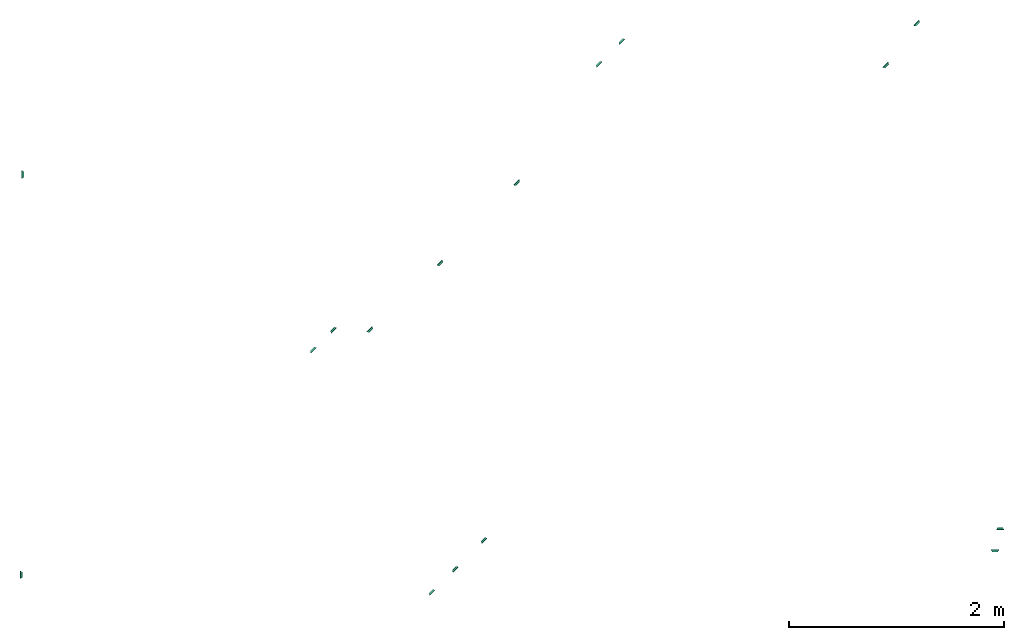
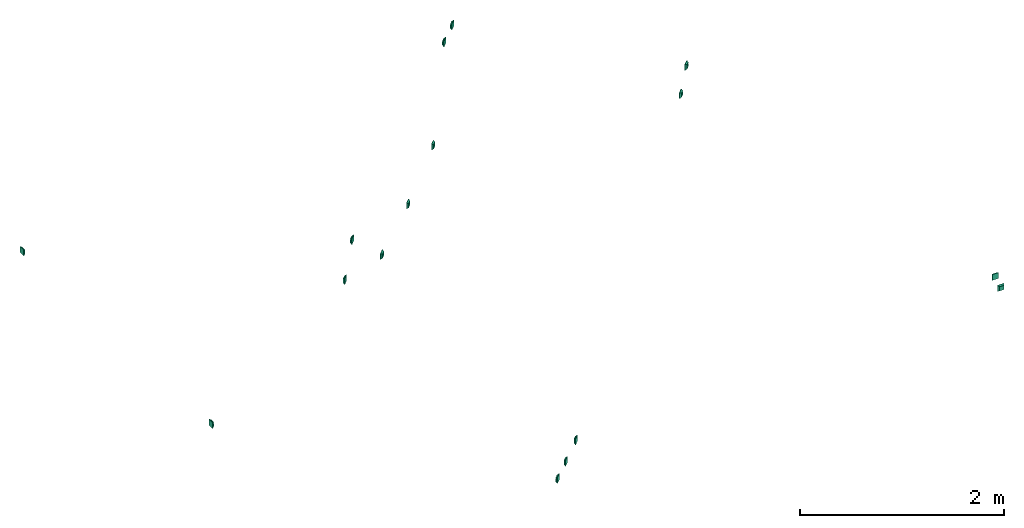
# One storey: 16 flow terminals.
"""IFC2X3 building model written with IfcOpenShell, lengths in millimetres."""

from ifc_helpers import new_model, entity, si_unit, converted_unit, derived_unit, direction, frame, origin_with_axes, place, context, subcontext, project, spatial, open_shell, surface_model, source, transform, mapped, type_object, element, save


model = new_model("IFC2X3")

# Units and contexts
model_context = context("Model", 3, precision=0.01, world=frame((0.0, 4.29681676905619e-09, 0.0)), true_north=direction((4.01073788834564e-13, 1.0)))
plan_context = context("Plan", 3, precision=0.01, world=frame((0.0, 4.29681676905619e-09, 0.0)), true_north=direction((4.01073788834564e-13, 1.0)))
body_context = subcontext(model_context, "Body", "Model", "MODEL_VIEW")
ifc_project = project(units=[converted_unit("PLANEANGLEUNIT", "DEGREE", entity("IfcPositiveLengthMeasure", 0.0174532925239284), si_unit("PLANEANGLEUNIT", "RADIAN"), dimensions=[0, 0, 0, 0, 0, 0, 0]), si_unit("AREAUNIT", "SQUARE_METRE"), si_unit("LENGTHUNIT", "METRE", prefix="MILLI"), si_unit("MASSUNIT", "GRAM", prefix="KILO"), si_unit("POWERUNIT", "WATT"), si_unit("PRESSUREUNIT", "PASCAL", prefix="KILO"), si_unit("FORCEUNIT", "NEWTON", prefix="KILO"), si_unit("ELECTRICVOLTAGEUNIT", "VOLT"), si_unit("ELECTRICCURRENTUNIT", "AMPERE"), si_unit("THERMODYNAMICTEMPERATUREUNIT", "DEGREE_CELSIUS"), si_unit("TIMEUNIT", "SECOND"), si_unit("VOLUMEUNIT", "CUBIC_METRE"), derived_unit("LINEARVELOCITYUNIT", [(si_unit("LENGTHUNIT", "METRE"), 1), (si_unit("TIMEUNIT", "SECOND"), -1)]), derived_unit("VOLUMETRICFLOWRATEUNIT", [(si_unit("VOLUMEUNIT", "CUBIC_METRE"), 1), (si_unit("TIMEUNIT", "SECOND"), -1)]), derived_unit("THERMALTRANSMITTANCEUNIT", [(si_unit("POWERUNIT", "WATT"), 1), (si_unit("THERMODYNAMICTEMPERATUREUNIT", "KELVIN"), -1), (si_unit("AREAUNIT", "SQUARE_METRE"), -1)]), derived_unit("SOUNDPRESSUREUNIT", [(si_unit("PRESSUREUNIT", "PASCAL"), 1)])], contexts=[model_context, plan_context])

# Site, building, storey
site_placement = place(None, frame((0.0, -4.29681676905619e-09, 0.0), z_axis=(0.0, 0.0, 1.0), x_axis=(1.0, 0.0, 0.0)))
site = spatial("IfcSite", under=ifc_project, at=site_placement, Name="ENGM", CompositionType="ELEMENT")
building_placement = place(site_placement, frame((0.0, 4.29681676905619e-09, 0.0), z_axis=(0.0, 0.0, 1.0), x_axis=(1.0, 0.0, 0.0)))
building = spatial("IfcBuilding", under=site, at=building_placement, Name="TS", CompositionType="ELEMENT")
storey_placement = place(building_placement, frame((0.0, 0.0, 204000.0), z_axis=(0.0, 0.0, 1.0), x_axis=(1.0, 0.0, 0.0)))
storey = spatial("IfcBuildingStorey", under=building, at=storey_placement, Name="Nivå D", CompositionType="ELEMENT", Elevation=204000.0)

# Flow terminals
outlet_type_1 = type_object("IfcOutletType", Name="Data socket-2", PredefinedType="COMMUNICATIONSOUTLET")
shared_shape_1 = source(origin_with_axes(), body_context, "Body", "SurfaceModel", [
    surface_model("IfcShellBasedSurfaceModel", [(35.5, 5.05547, 35.5832), (25.5, 20.05547, 25.5832), (-35.5, 5.05547, 35.5832), (-25.5, 20.05547, 25.5832), (-35.5, 4.94453, 35.41679), (-25.5, 19.94453, 25.41679), (25.5, 19.94453, 25.41679), (35.5, 4.94453, 35.41679), (35.5, 4.94453, -35.41679), (25.5, 19.94453, -25.41679), (-35.5, 4.94453, -35.41679), (-25.5, 19.94453, -25.41679), (-35.5, 5.05547, -35.5832), (-25.5, 20.05547, -25.5832), (25.5, 20.05547, -25.5832), (35.5, 5.05547, -35.5832), (-25.5832, 20.05547, -25.5), (-35.5832, 5.05547, -35.5), (-35.5832, 5.05547, 35.5), (-25.5832, 20.05547, 25.5), (-25.41679, 19.94453, 25.5), (-35.41679, 4.94453, 35.5), (-25.41679, 19.94453, -25.5), (-35.41679, 4.94453, -35.5), (25.41679, 19.94453, -25.5), (35.41679, 4.94453, -35.5), (35.41679, 4.94453, 35.5), (25.41679, 19.94453, 25.5), (25.5832, 20.05547, 25.5), (35.5832, 5.05547, 35.5), (25.5832, 20.05547, -25.5), (35.5832, 5.05547, -35.5), (35.4, 5.0, -35.5), (35.4, 0.0, -35.5), (35.4, 0.0, 35.5), (35.4, 5.0, 35.5), (35.6, 5.0, 35.5), (35.6, 0.0, 35.5), (35.6, 0.0, -35.5), (35.6, 5.0, -35.5), (-35.5, 0.0, -35.6), (-35.5, 5.0, -35.6), (35.5, 5.0, -35.6), (35.5, 0.0, -35.6), (35.5, 0.0, -35.4), (35.5, 5.0, -35.4), (-35.5, 5.0, -35.4), (-35.5, 0.0, -35.4), (-35.6, 5.0, -35.5), (-35.6, 0.0, -35.5), (-35.6, 0.0, 35.5), (-35.6, 5.0, 35.5), (-35.4, 5.0, 35.5), (-35.4, 0.0, 35.5), (-35.4, 0.0, -35.5), (-35.4, 5.0, -35.5), (-35.5, -0.1, -35.5), (35.5, -0.1, -35.5), (35.5, -0.1, 35.5), (-35.5, -0.1, 35.5), (-35.5, 0.1, 35.5), (35.5, 0.1, 35.5), (35.5, 0.1, -35.5), (-35.5, 0.1, -35.5), (-35.5, 0.0, 35.4), (-35.5, 5.0, 35.4), (35.5, 5.0, 35.4), (35.5, 0.0, 35.4), (35.5, 0.0, 35.6), (35.5, 5.0, 35.6), (-35.5, 5.0, 35.6), (-35.5, 0.0, 35.6), (-25.5, 19.9, -25.5), (25.5, 19.9, -25.5), (25.5, 19.9, 25.5), (-25.5, 19.9, 25.5), (-25.5, 20.1, 25.5), (25.5, 20.1, 25.5), (25.5, 20.1, -25.5), (-25.5, 20.1, -25.5), (-25.5, 22.0, 25.5), (-25.5, 20.0, 25.5), (25.5, 20.0, 25.5), (25.5, 22.0, 25.5), (25.5, 22.0, 20.5), (25.5, 20.0, 20.5), (-25.5, 20.0, 20.5), (-25.5, 22.0, 20.5), (-25.5, 22.0, 10.5), (-25.5, 20.0, 10.5), (25.5, 20.0, 10.5), (25.5, 22.0, 10.5), (25.5, 22.0, -25.5), (25.5, 20.0, -25.5), (-25.5, 20.0, -25.5), (-25.5, 22.0, -25.5), (-17.5, 21.91, -6.5), (-2.5, 21.91, -6.5), (-17.5, 21.91, 8.5), (-2.5, 21.91, 8.5), (-17.5, 22.11, 8.5), (-2.5, 22.11, 8.5), (-17.5, 22.11, -6.5), (-2.5, 22.11, -6.5), (2.5, 21.91, -6.5), (17.5, 21.91, -6.5), (17.5, 21.91, 8.5), (2.5, 21.91, 8.5), (2.5, 22.11, 8.5), (17.5, 22.11, 8.5), (2.5, 22.11, -6.5), (17.5, 22.11, -6.5)], [open_shell([[[0, 1, 2]], [[3, 2, 1]], [[4, 5, 6]], [[6, 7, 4]], [[3, 1, 6]], [[6, 5, 3]], [[2, 3, 4]], [[5, 4, 3]], [[0, 2, 7]], [[4, 7, 2]], [[1, 0, 6]], [[7, 6, 0]], [[8, 9, 10]], [[11, 10, 9]], [[12, 13, 14]], [[14, 15, 12]], [[11, 9, 14]], [[14, 13, 11]], [[10, 11, 12]], [[13, 12, 11]], [[8, 10, 12]], [[12, 15, 8]], [[9, 8, 14]], [[15, 14, 8]], [[16, 17, 18]], [[18, 19, 16]], [[20, 21, 22]], [[23, 22, 21]], [[18, 17, 23]], [[23, 21, 18]], [[19, 18, 20]], [[21, 20, 18]], [[16, 19, 20]], [[20, 22, 16]], [[17, 16, 22]], [[22, 23, 17]], [[24, 25, 26]], [[26, 27, 24]], [[28, 29, 30]], [[31, 30, 29]], [[26, 25, 31]], [[31, 29, 26]], [[27, 26, 28]], [[29, 28, 26]], [[24, 27, 28]], [[28, 30, 24]], [[25, 24, 30]], [[30, 31, 25]], [[32, 33, 34]], [[34, 35, 32]], [[36, 37, 38]], [[38, 39, 36]], [[34, 33, 38]], [[38, 37, 34]], [[35, 34, 37]], [[37, 36, 35]], [[32, 35, 36]], [[36, 39, 32]], [[33, 32, 39]], [[39, 38, 33]], [[40, 41, 42]], [[42, 43, 40]], [[44, 45, 46]], [[46, 47, 44]], [[42, 41, 46]], [[46, 45, 42]], [[43, 42, 45]], [[45, 44, 43]], [[40, 43, 44]], [[44, 47, 40]], [[41, 40, 47]], [[47, 46, 41]], [[48, 49, 50]], [[50, 51, 48]], [[52, 53, 54]], [[54, 55, 52]], [[50, 49, 54]], [[54, 53, 50]], [[51, 50, 53]], [[53, 52, 51]], [[48, 51, 52]], [[52, 55, 48]], [[49, 48, 55]], [[55, 54, 49]], [[56, 57, 58]], [[58, 59, 56]], [[60, 61, 62]], [[62, 63, 60]], [[58, 57, 62]], [[62, 61, 58]], [[59, 58, 61]], [[61, 60, 59]], [[56, 59, 60]], [[60, 63, 56]], [[57, 56, 63]], [[63, 62, 57]], [[64, 65, 66]], [[66, 67, 64]], [[68, 69, 70]], [[70, 71, 68]], [[66, 65, 70]], [[70, 69, 66]], [[67, 66, 69]], [[69, 68, 67]], [[64, 67, 68]], [[68, 71, 64]], [[65, 64, 71]], [[71, 70, 65]], [[72, 73, 74]], [[74, 75, 72]], [[76, 77, 78]], [[78, 79, 76]], [[74, 73, 78]], [[78, 77, 74]], [[75, 74, 77]], [[77, 76, 75]], [[72, 75, 76]], [[76, 79, 72]], [[73, 72, 79]], [[79, 78, 73]], [[80, 81, 82]], [[82, 83, 80]], [[84, 85, 86]], [[86, 87, 84]], [[82, 81, 86]], [[86, 85, 82]], [[83, 82, 85]], [[85, 84, 83]], [[80, 83, 84]], [[84, 87, 80]], [[81, 80, 87]], [[87, 86, 81]], [[88, 89, 90]], [[90, 91, 88]], [[92, 93, 94]], [[94, 95, 92]], [[90, 89, 94]], [[94, 93, 90]], [[91, 90, 93]], [[93, 92, 91]], [[88, 91, 92]], [[92, 95, 88]], [[89, 88, 95]], [[95, 94, 89]], [[96, 97, 98]], [[99, 98, 97]], [[100, 101, 102]], [[103, 102, 101]], [[99, 97, 103]], [[103, 101, 99]], [[98, 99, 101]], [[101, 100, 98]], [[96, 98, 100]], [[100, 102, 96]], [[97, 96, 102]], [[102, 103, 97]], [[104, 105, 106]], [[106, 107, 104]], [[108, 109, 110]], [[111, 110, 109]], [[106, 105, 111]], [[111, 109, 106]], [[107, 106, 109]], [[109, 108, 107]], [[104, 107, 108]], [[108, 110, 104]], [[105, 104, 110]], [[110, 111, 105]]])]),
])
for number, where, z_axis, x_axis, name in (
    (1, (595089.6, 402394.46461, 2200.0), (0.0, 0.0, 1.0), (0.0, -1.0, 0.0), "Data socket-2"),
    (2, (597999.79382, 400939.29283, 2200.0), (0.0, 0.0, 1.0), (0.707106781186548, 0.707106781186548, 0.0), "Data socket-2"),
    (3, (603135.25812, 403418.55894, 647.38949999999), (0.0, 0.0, 1.0), (-0.707106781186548, -0.707106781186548, 0.0), "Data socket-2"),
    (4, (603423.325, 403808.4492, 650.062349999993), (0.0, 0.0, 1.0), (-0.707106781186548, -0.707106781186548, 0.0), "Data socket-2"),
    (5, (598916.61458, 398496.39641, 500.0), (0.0, 0.0, 1.0), (0.707106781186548, 0.707106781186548, 0.0), "Data socket-2"),
    (6, (599134.00856, 398712.52582, 500.0), (0.0, 0.0, 1.0), (0.707106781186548, 0.707106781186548, 0.0), "Data socket-2"),
    (7, (604156.64152, 398899.50638, 713.5), (0.0, 0.0, 1.0), (-1.0, 0.0, 0.0), "Data socket-2"),
    (8, (604205.07551, 399082.57637, 713.5), (0.0, 0.0, 1.0), (1.0, 0.0, 0.0), "Data socket-2"),
    (9, (599401.85127, 398980.36853, 500.0), (0.0, 0.0, 1.0), (0.707106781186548, 0.707106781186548, 0.0), "Data socket-2"),
    (10, (600685.10253, 403627.99566, 2200.0), (0.0, 0.0, 1.0), (0.707106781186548, 0.707106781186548, 0.0), "Data socket-2"),
    (11, (600472.89978, 403415.93433, 2200.0), (0.0, 0.0, 1.0), (0.707106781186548, 0.707106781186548, 0.0), "Data socket-2"),
):
    element("IfcFlowTerminal", number, at=place(storey_placement, frame(where, z_axis=z_axis, x_axis=x_axis)), inside=storey, type_object=outlet_type_1, Name=name, context=body_context, shape_type="MappedRepresentation", body=[
        mapped(shared_shape_1, transform((0.0, 0.0, 0.0), scale=1.0)),
    ])
outlet_type_2 = type_object("IfcOutletType", Name="Datauttak enkelt Vegg - IKT", PredefinedType="COMMUNICATIONSOUTLET")
shared_shape_2 = source(origin_with_axes(), body_context, "Body", "SurfaceModel", [
    surface_model("IfcShellBasedSurfaceModel", [(35.5, 5.05547, 35.5832), (25.5, 20.05547, 25.5832), (-35.5, 5.05547, 35.5832), (-25.5, 20.05547, 25.5832), (-35.5, 4.94453, 35.41679), (-25.5, 19.94453, 25.41679), (25.5, 19.94453, 25.41679), (35.5, 4.94453, 35.41679), (35.5, 4.94453, -35.41679), (25.5, 19.94453, -25.41679), (-35.5, 4.94453, -35.41679), (-25.5, 19.94453, -25.41679), (-35.5, 5.05547, -35.5832), (-25.5, 20.05547, -25.5832), (25.5, 20.05547, -25.5832), (35.5, 5.05547, -35.5832), (-25.5832, 20.05547, -25.5), (-35.5832, 5.05547, -35.5), (-35.5832, 5.05547, 35.5), (-25.5832, 20.05547, 25.5), (-25.41679, 19.94453, 25.5), (-35.41679, 4.94453, 35.5), (-25.41679, 19.94453, -25.5), (-35.41679, 4.94453, -35.5), (25.41679, 19.94453, -25.5), (35.41679, 4.94453, -35.5), (35.41679, 4.94453, 35.5), (25.41679, 19.94453, 25.5), (25.5832, 20.05547, 25.5), (35.5832, 5.05547, 35.5), (25.5832, 20.05547, -25.5), (35.5832, 5.05547, -35.5), (35.4, 5.0, -35.5), (35.4, 0.0, -35.5), (35.4, 0.0, 35.5), (35.4, 5.0, 35.5), (35.6, 5.0, 35.5), (35.6, 0.0, 35.5), (35.6, 0.0, -35.5), (35.6, 5.0, -35.5), (-35.5, 0.0, -35.6), (-35.5, 5.0, -35.6), (35.5, 5.0, -35.6), (35.5, 0.0, -35.6), (35.5, 0.0, -35.4), (35.5, 5.0, -35.4), (-35.5, 5.0, -35.4), (-35.5, 0.0, -35.4), (-35.6, 5.0, -35.5), (-35.6, 0.0, -35.5), (-35.6, 0.0, 35.5), (-35.6, 5.0, 35.5), (-35.4, 5.0, 35.5), (-35.4, 0.0, 35.5), (-35.4, 0.0, -35.5), (-35.4, 5.0, -35.5), (-35.5, -0.1, -35.5), (35.5, -0.1, -35.5), (35.5, -0.1, 35.5), (-35.5, -0.1, 35.5), (-35.5, 0.1, 35.5), (35.5, 0.1, 35.5), (35.5, 0.1, -35.5), (-35.5, 0.1, -35.5), (-35.5, 0.0, 35.4), (-35.5, 5.0, 35.4), (35.5, 5.0, 35.4), (35.5, 0.0, 35.4), (35.5, 0.0, 35.6), (35.5, 5.0, 35.6), (-35.5, 5.0, 35.6), (-35.5, 0.0, 35.6), (-25.5, 19.9, -25.5), (25.5, 19.9, -25.5), (25.5, 19.9, 25.5), (-25.5, 19.9, 25.5), (-25.5, 20.1, 25.5), (25.5, 20.1, 25.5), (25.5, 20.1, -25.5), (-25.5, 20.1, -25.5), (-7.5, 21.91, -6.5), (7.5, 21.91, -6.5), (7.5, 21.91, 8.5), (-7.5, 21.91, 8.5), (-7.5, 22.11, 8.5), (7.5, 22.11, 8.5), (-7.5, 22.11, -6.5), (7.5, 22.11, -6.5), (-25.5, 22.0, 25.5), (-25.5, 20.0, 25.5), (25.5, 20.0, 25.5), (25.5, 22.0, 25.5), (25.5, 22.0, 20.5), (25.5, 20.0, 20.5), (-25.5, 20.0, 20.5), (-25.5, 22.0, 20.5), (-25.5, 22.0, 10.5), (-25.5, 20.0, 10.5), (25.5, 20.0, 10.5), (25.5, 22.0, 10.5), (25.5, 22.0, -25.5), (25.5, 20.0, -25.5), (-25.5, 20.0, -25.5), (-25.5, 22.0, -25.5)], [open_shell([[[0, 1, 2]], [[3, 2, 1]], [[4, 5, 6]], [[6, 7, 4]], [[3, 1, 6]], [[6, 5, 3]], [[2, 3, 4]], [[5, 4, 3]], [[0, 2, 7]], [[4, 7, 2]], [[1, 0, 6]], [[7, 6, 0]], [[8, 9, 10]], [[11, 10, 9]], [[12, 13, 14]], [[14, 15, 12]], [[11, 9, 14]], [[14, 13, 11]], [[10, 11, 12]], [[13, 12, 11]], [[8, 10, 12]], [[12, 15, 8]], [[9, 8, 14]], [[15, 14, 8]], [[16, 17, 18]], [[18, 19, 16]], [[20, 21, 22]], [[23, 22, 21]], [[18, 17, 23]], [[23, 21, 18]], [[19, 18, 20]], [[21, 20, 18]], [[16, 19, 20]], [[20, 22, 16]], [[17, 16, 22]], [[22, 23, 17]], [[24, 25, 26]], [[26, 27, 24]], [[28, 29, 30]], [[31, 30, 29]], [[26, 25, 31]], [[31, 29, 26]], [[27, 26, 28]], [[29, 28, 26]], [[24, 27, 28]], [[28, 30, 24]], [[25, 24, 30]], [[30, 31, 25]], [[32, 33, 34]], [[34, 35, 32]], [[36, 37, 38]], [[38, 39, 36]], [[34, 33, 38]], [[38, 37, 34]], [[35, 34, 37]], [[37, 36, 35]], [[32, 35, 36]], [[36, 39, 32]], [[33, 32, 39]], [[39, 38, 33]], [[40, 41, 42]], [[42, 43, 40]], [[44, 45, 46]], [[46, 47, 44]], [[42, 41, 46]], [[46, 45, 42]], [[43, 42, 45]], [[45, 44, 43]], [[40, 43, 44]], [[44, 47, 40]], [[41, 40, 47]], [[47, 46, 41]], [[48, 49, 50]], [[50, 51, 48]], [[52, 53, 54]], [[54, 55, 52]], [[50, 49, 54]], [[54, 53, 50]], [[51, 50, 53]], [[53, 52, 51]], [[48, 51, 52]], [[52, 55, 48]], [[49, 48, 55]], [[55, 54, 49]], [[56, 57, 58]], [[58, 59, 56]], [[60, 61, 62]], [[62, 63, 60]], [[58, 57, 62]], [[62, 61, 58]], [[59, 58, 61]], [[61, 60, 59]], [[56, 59, 60]], [[60, 63, 56]], [[57, 56, 63]], [[63, 62, 57]], [[64, 65, 66]], [[66, 67, 64]], [[68, 69, 70]], [[70, 71, 68]], [[66, 65, 70]], [[70, 69, 66]], [[67, 66, 69]], [[69, 68, 67]], [[64, 67, 68]], [[68, 71, 64]], [[65, 64, 71]], [[71, 70, 65]], [[72, 73, 74]], [[74, 75, 72]], [[76, 77, 78]], [[78, 79, 76]], [[74, 73, 78]], [[78, 77, 74]], [[75, 74, 77]], [[77, 76, 75]], [[72, 75, 76]], [[76, 79, 72]], [[73, 72, 79]], [[79, 78, 73]], [[80, 81, 82]], [[82, 83, 80]], [[84, 85, 86]], [[87, 86, 85]], [[82, 81, 87]], [[87, 85, 82]], [[83, 82, 85]], [[85, 84, 83]], [[80, 83, 84]], [[84, 86, 80]], [[81, 80, 86]], [[86, 87, 81]], [[88, 89, 90]], [[90, 91, 88]], [[92, 93, 94]], [[94, 95, 92]], [[90, 89, 94]], [[94, 93, 90]], [[91, 90, 93]], [[93, 92, 91]], [[88, 91, 92]], [[92, 95, 88]], [[89, 88, 95]], [[95, 94, 89]], [[96, 97, 98]], [[98, 99, 96]], [[100, 101, 102]], [[102, 103, 100]], [[98, 97, 102]], [[102, 101, 98]], [[99, 98, 101]], [[101, 100, 99]], [[96, 99, 100]], [[100, 103, 96]], [[97, 96, 103]], [[103, 102, 97]]])]),
])
for number, where, z_axis, x_axis, name in (
    (12, (598328.74211, 400955.41709, 1900.0), (0.0, 0.0, 1.0), (-0.707106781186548, -0.707106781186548, 0.0), "Datauttak enkelt Vegg - IKT"),
    (13, (599696.81994, 402323.49492, 1900.0), (0.0, 0.0, 1.0), (-0.707106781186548, -0.707106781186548, 0.0), "Datauttak enkelt Vegg - IKT"),
    (14, (598981.76256, 401575.18884, 1900.0), (0.0, 0.0, 1.0), (-0.707106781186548, -0.707106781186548, 0.0), "Datauttak enkelt Vegg - IKT"),
    (15, (597811.67048, 400754.70504, 1900.0), (0.0, 0.0, 1.0), (0.707106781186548, 0.707106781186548, 0.0), "Datauttak enkelt Vegg - IKT"),
    (16, (595074.5, 398665.39899, 2400.0), (0.0, 0.0, 1.0), (0.0, -1.0, 0.0), "Datauttak enkelt Vegg - IKT"),
):
    element("IfcFlowTerminal", number, at=place(storey_placement, frame(where, z_axis=z_axis, x_axis=x_axis)), inside=storey, type_object=outlet_type_2, Name=name, context=body_context, shape_type="MappedRepresentation", body=[
        mapped(shared_shape_2, transform((0.0, 0.0, 0.0), scale=1.0)),
    ])

save(model, "model.ifc")
